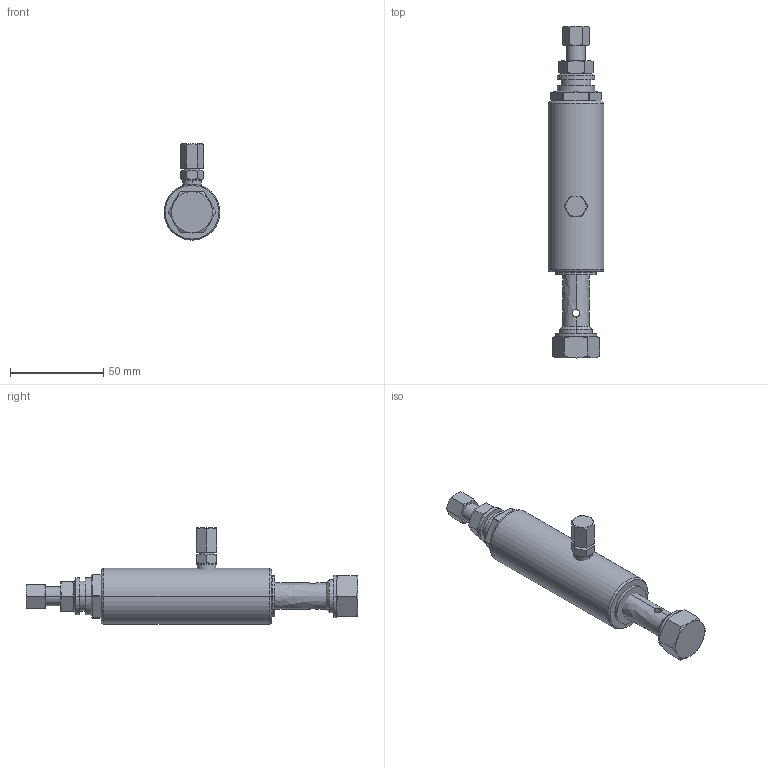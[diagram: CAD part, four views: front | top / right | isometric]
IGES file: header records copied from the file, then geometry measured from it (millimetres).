
Start section:  PTC IGES file: 114909-en-y.igs
Global section: file name: 114909-en-y.igs; native system: Creo Parametric by PTC Inc.; preprocessor: 2021072; author: qtmwp1; organization: Unknown; date: 20231218.083023; units: inch
Bounding box: 30 x 177.9 x 51.65 mm (x, y, z)
Surface area: 20242.6 mm2 (no closed solid volume)
Topology: 0 solids, 0 shells, 133 faces, 606 edges, 604 vertices
Faces by surface type: revolution 84, bspline 49
